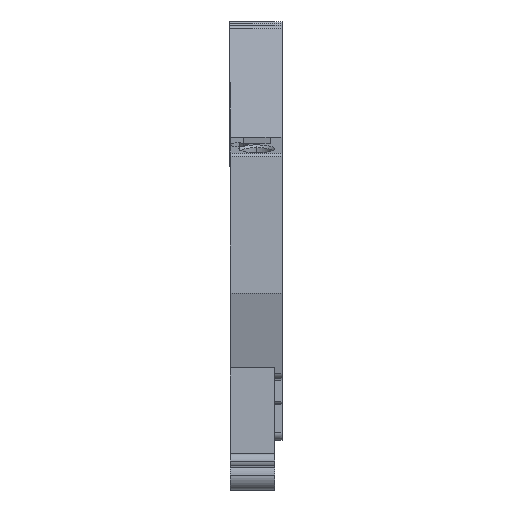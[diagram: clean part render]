
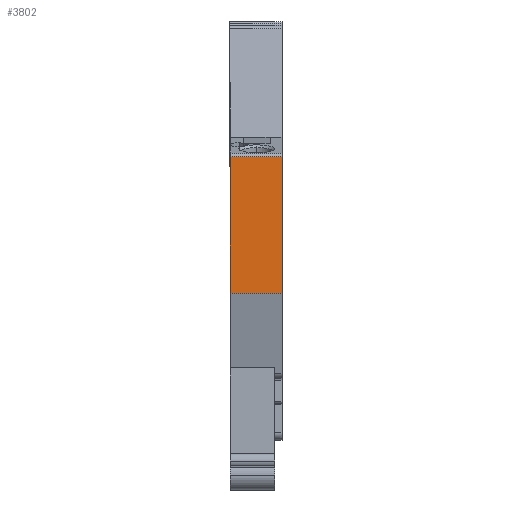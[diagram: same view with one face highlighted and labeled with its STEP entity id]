
A CAD part, front view. The second image highlights one B-rep face of the part: STEP entity #3802.
In plain terms, the highlighted planar face has unit normal (0, -1, 0).
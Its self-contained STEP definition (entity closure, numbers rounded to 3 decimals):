
#106 = EDGE_CURVE ( 'NONE', #3856, #11104, #1000, .T. ) ;
#223 = FACE_OUTER_BOUND ( 'NONE', #5876, .T. ) ;
#561 = ORIENTED_EDGE ( 'NONE', *, *, #7360, .F. ) ;
#1000 = LINE ( 'NONE', #12697, #11707 ) ;
#2160 = VECTOR ( 'NONE', #11669, 1000. ) ;
#2336 = LINE ( 'NONE', #11317, #12104 ) ;
#2380 = EDGE_CURVE ( 'NONE', #12599, #11104, #2336, .T. ) ;
#2423 = CARTESIAN_POINT ( 'NONE',  ( 7., 1.1, 44.863 ) ) ;
#2610 = CARTESIAN_POINT ( 'NONE',  ( 7., 1.1, 44.863 ) ) ;
#2954 = EDGE_CURVE ( 'NONE', #6728, #12599, #11484, .T. ) ;
#3778 = CARTESIAN_POINT ( 'NONE',  ( 0., 1.1, 44.863 ) ) ;
#3802 = ADVANCED_FACE ( 'NONE', ( #223 ), #8196, .F. ) ;
#3856 = VERTEX_POINT ( 'NONE', #5704 ) ;
#5270 = AXIS2_PLACEMENT_3D ( 'NONE', #2423, #11406, #8571 ) ;
#5704 = CARTESIAN_POINT ( 'NONE',  ( 7., 1.1, 26.5 ) ) ;
#5876 = EDGE_LOOP ( 'NONE', ( #9440, #10262, #8455, #561 ) ) ;
#5915 = VECTOR ( 'NONE', #7482, 1000. ) ;
#5995 = DIRECTION ( 'NONE',  ( -1., 0., 0. ) ) ;
#6728 = VERTEX_POINT ( 'NONE', #2610 ) ;
#7360 = EDGE_CURVE ( 'NONE', #6728, #3856, #12634, .T. ) ;
#7482 = DIRECTION ( 'NONE',  ( -1., 0., 0. ) ) ;
#7542 = CARTESIAN_POINT ( 'NONE',  ( 0., 1.1, 26.5 ) ) ;
#7729 = CARTESIAN_POINT ( 'NONE',  ( 7., 1.1, 44.863 ) ) ;
#8196 = PLANE ( 'NONE',  #5270 ) ;
#8455 = ORIENTED_EDGE ( 'NONE', *, *, #106, .F. ) ;
#8571 = DIRECTION ( 'NONE',  ( -1., 0., 0. ) ) ;
#9440 = ORIENTED_EDGE ( 'NONE', *, *, #2954, .T. ) ;
#10262 = ORIENTED_EDGE ( 'NONE', *, *, #2380, .T. ) ;
#10292 = DIRECTION ( 'NONE',  ( 0., 0., -1. ) ) ;
#11104 = VERTEX_POINT ( 'NONE', #7542 ) ;
#11317 = CARTESIAN_POINT ( 'NONE',  ( 0., 1.1, 44.863 ) ) ;
#11406 = DIRECTION ( 'NONE',  ( 0., 1., 0. ) ) ;
#11424 = CARTESIAN_POINT ( 'NONE',  ( 7., 1.1, 44.863 ) ) ;
#11484 = LINE ( 'NONE', #11424, #5915 ) ;
#11669 = DIRECTION ( 'NONE',  ( 0., 0., -1. ) ) ;
#11707 = VECTOR ( 'NONE', #5995, 1000. ) ;
#12104 = VECTOR ( 'NONE', #10292, 1000. ) ;
#12599 = VERTEX_POINT ( 'NONE', #3778 ) ;
#12634 = LINE ( 'NONE', #7729, #2160 ) ;
#12697 = CARTESIAN_POINT ( 'NONE',  ( 7., 1.1, 26.5 ) ) ;
